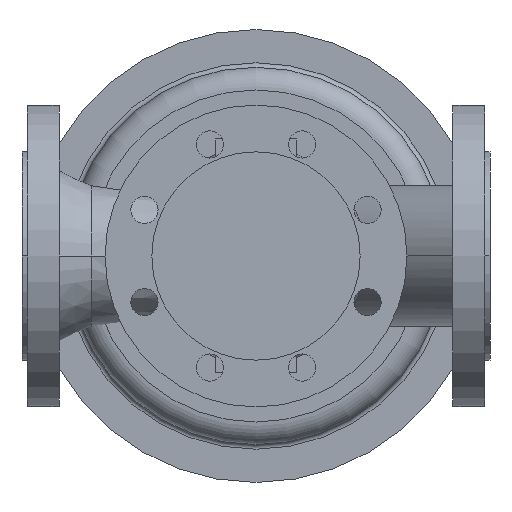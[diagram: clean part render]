
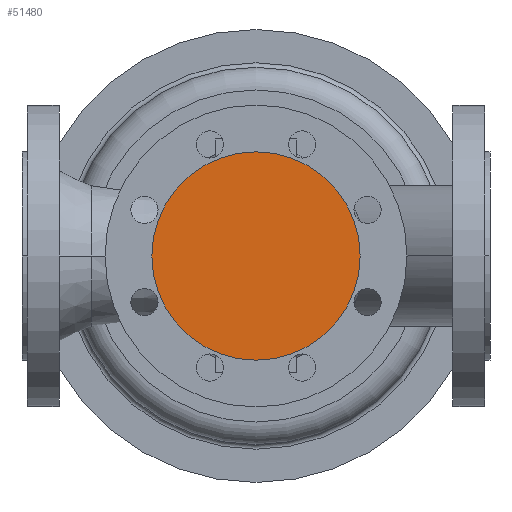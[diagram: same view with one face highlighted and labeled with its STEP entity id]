
A CAD part, front view. The second image highlights one B-rep face of the part: STEP entity #51480.
In plain terms, the highlighted planar face has unit normal (0, -1, 0).
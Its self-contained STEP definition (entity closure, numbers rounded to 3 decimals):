
#4180=CARTESIAN_POINT('',(224.,-130.,0.));
#4190=VERTEX_POINT('',#4180);
#4220=CARTESIAN_POINT('',(155.,-130.,0.));
#4230=DIRECTION('',(0.,1.,0.));
#4240=DIRECTION('',(1.,0.,0.));
#4250=AXIS2_PLACEMENT_3D('',#4220,#4230,#4240);
#4260=CIRCLE('',#4250,69.);
#4270=CARTESIAN_POINT('',(86.,-130.,0.));
#4280=VERTEX_POINT('',#4270);
#4290=EDGE_CURVE('',#4280,#4190,#4260,.T.);
#51380=CARTESIAN_POINT('',(189.5,-130.,0.));
#51390=DIRECTION('',(0.,-1.,0.));
#51400=DIRECTION('',(-1.,0.,0.));
#51410=AXIS2_PLACEMENT_3D('',#51380,#51390,#51400);
#51420=PLANE('',#51410);
#51430=ORIENTED_EDGE('',*,*,#4290,.F.);
#51440=EDGE_CURVE('',#4190,#4280,#4260,.T.);
#51450=ORIENTED_EDGE('',*,*,#51440,.F.);
#51460=EDGE_LOOP('',(#51450,#51430));
#51470=FACE_OUTER_BOUND('',#51460,.T.);
#51480=ADVANCED_FACE('',(#51470),#51420,.T.);
